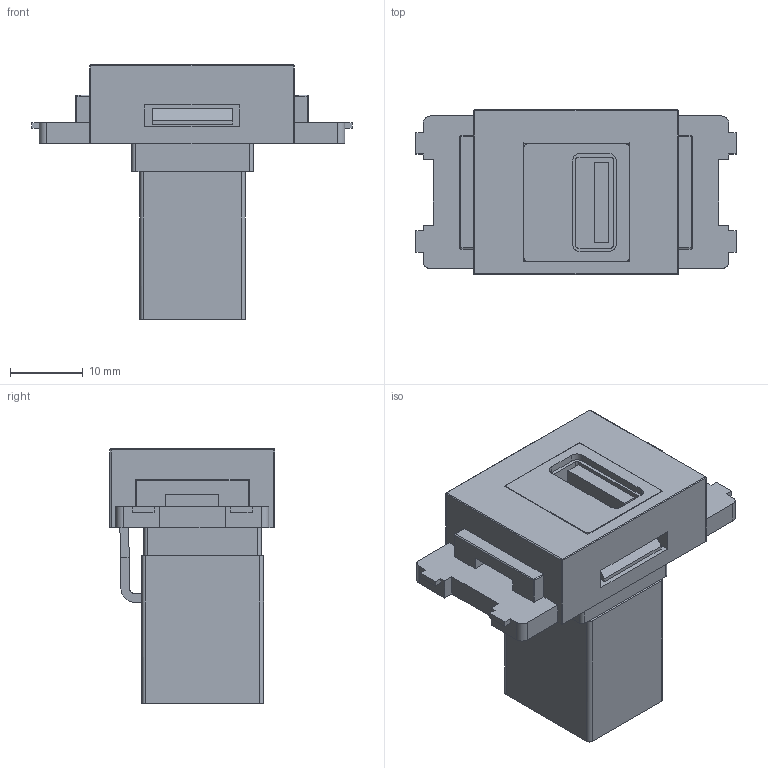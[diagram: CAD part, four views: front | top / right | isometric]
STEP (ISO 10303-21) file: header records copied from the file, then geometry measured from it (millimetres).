
FILE_DESCRIPTION(('FreeCAD Model'),'2;1');
FILE_NAME('Open CASCADE Shape Model','2026-05-12T09:29:29',(''),(''), 'Open CASCADE STEP processor 7.8','FreeCAD','Unknown');
FILE_SCHEMA(('AUTOMOTIVE_DESIGN { 1 0 10303 214 1 1 1 1 }'));
Length unit declared in the file: millimetre
Products named in the file (3): CC_USB3A_ST_XX_KH; SY-NWT-KH-xx; FAU3-AFAF180-xx-ABS
Assembly tree (2 placements, depth 2):
  CC_USB3A_ST_XX_KH
    SY-NWT-KH-xx
    FAU3-AFAF180-xx-ABS
Bounding box: 43.95 x 22.76 x 35 mm (x, y, z)
Volume: 10967 mm3; surface area: 8371.6 mm2
Topology: 2 solids, 2 shells, 208 faces, 570 edges, 370 vertices
Faces by surface type: bspline 208
Entity records: 9410 total; most frequent: CARTESIAN_POINT 5885, ORIENTED_EDGE 1140, EDGE_CURVE 570, B_SPLINE_CURVE_WITH_KNOTS 570, VERTEX_POINT 370, FACE_BOUND 222, EDGE_LOOP 222, ADVANCED_FACE 208
